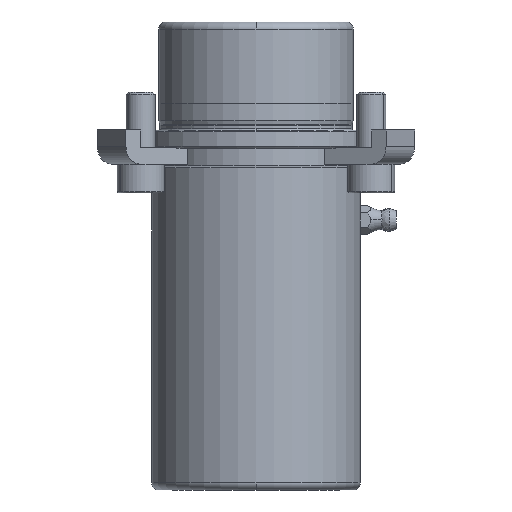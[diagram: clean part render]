
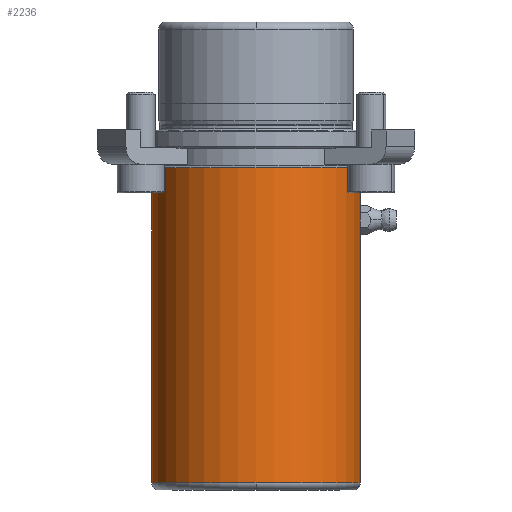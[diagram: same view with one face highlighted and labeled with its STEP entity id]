
A CAD part, front view. The second image highlights one B-rep face of the part: STEP entity #2236.
In plain terms, the highlighted cylindrical face has radius 29 mm (diameter 58 mm), a partial arc.
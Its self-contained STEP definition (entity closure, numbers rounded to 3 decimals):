
#604=CARTESIAN_POINT('',(0.,-29.,-98.));
#605=VERTEX_POINT('',#604);
#613=CARTESIAN_POINT('',(-29.0,0.,-98.));
#614=VERTEX_POINT('',#613);
#615=CARTESIAN_POINT('',(0.0,0.,-98.));
#616=DIRECTION('',(0.0,0.0,-1.0));
#617=DIRECTION('',(1.0,0.0,0.0));
#618=AXIS2_PLACEMENT_3D('',#615,#616,#617);
#619=CIRCLE('',#618,29.0);
#620=EDGE_CURVE('',#605,#614,#619,.T.);
#637=CARTESIAN_POINT('',(29.0,0.,-98.));
#638=VERTEX_POINT('',#637);
#639=CARTESIAN_POINT('',(29.0,0.,-27.5));
#640=VERTEX_POINT('',#639);
#641=CARTESIAN_POINT('',(29.0,0.,-98.));
#642=DIRECTION('',(0.0,0.0,1.0));
#643=VECTOR('',#642,70.5);
#644=LINE('',#641,#643);
#645=EDGE_CURVE('',#638,#640,#644,.T.);
#655=CARTESIAN_POINT('',(-29.0,0.,-10.5));
#656=VERTEX_POINT('',#655);
#657=CARTESIAN_POINT('',(-29.0,0.,-98.));
#658=DIRECTION('',(0.0,0.0,1.0));
#659=VECTOR('',#658,87.5);
#660=LINE('',#657,#659);
#661=EDGE_CURVE('',#614,#656,#660,.T.);
#663=CARTESIAN_POINT('',(29.0,0.,-10.5));
#664=VERTEX_POINT('',#663);
#672=CARTESIAN_POINT('',(29.0,0.,-22.5));
#673=VERTEX_POINT('',#672);
#674=CARTESIAN_POINT('',(29.0,0.,-22.5));
#675=DIRECTION('',(0.0,0.0,1.0));
#676=VECTOR('',#675,12.0);
#677=LINE('',#674,#676);
#678=EDGE_CURVE('',#673,#664,#677,.T.);
#1577=CARTESIAN_POINT('',(28.892,-2.5,-25.));
#1578=VERTEX_POINT('',#1577);
#1579=CARTESIAN_POINT('',(28.892,-2.5,-25.));
#1580=CARTESIAN_POINT('',(28.892,-2.5,-24.843));
#1581=CARTESIAN_POINT('',(28.893,-2.485,-24.681));
#1582=CARTESIAN_POINT('',(28.899,-2.422,-24.358));
#1583=CARTESIAN_POINT('',(28.903,-2.373,-24.197));
#1584=CARTESIAN_POINT('',(28.913,-2.246,-23.889));
#1585=CARTESIAN_POINT('',(28.919,-2.166,-23.741));
#1586=CARTESIAN_POINT('',(28.932,-1.983,-23.469));
#1587=CARTESIAN_POINT('',(28.939,-1.879,-23.343));
#1588=CARTESIAN_POINT('',(28.953,-1.657,-23.121));
#1589=CARTESIAN_POINT('',(28.96,-1.531,-23.017));
#1590=CARTESIAN_POINT('',(28.973,-1.259,-22.834));
#1591=CARTESIAN_POINT('',(28.979,-1.111,-22.754));
#1592=CARTESIAN_POINT('',(28.989,-0.803,-22.627));
#1593=CARTESIAN_POINT('',(28.993,-0.642,-22.578));
#1594=CARTESIAN_POINT('',(28.999,-0.319,-22.515));
#1595=CARTESIAN_POINT('',(29.0,-0.157,-22.5));
#1596=CARTESIAN_POINT('',(29.0,0.,-22.5));
#1597=B_SPLINE_CURVE_WITH_KNOTS('',3,(#1579,#1580,#1581,#1582,#1583,#1584,#1585,#1586,#1587,#1588,#1589,#1590,#1591,#1592,#1593,#1594,#1595,#1596),.UNSPECIFIED.,.F.,.U.,(4,2,2,2,2,2,2,2,4),(0.0,0.471,0.942,1.413,1.884,2.356,2.827,3.298,3.769),.UNSPECIFIED.);
#1598=EDGE_CURVE('',#1578,#673,#1597,.T.);
#1600=CARTESIAN_POINT('',(29.0,0.,-27.5));
#1601=CARTESIAN_POINT('',(29.0,-0.157,-27.5));
#1602=CARTESIAN_POINT('',(28.999,-0.319,-27.485));
#1603=CARTESIAN_POINT('',(28.993,-0.642,-27.422));
#1604=CARTESIAN_POINT('',(28.989,-0.803,-27.373));
#1605=CARTESIAN_POINT('',(28.979,-1.111,-27.246));
#1606=CARTESIAN_POINT('',(28.973,-1.259,-27.166));
#1607=CARTESIAN_POINT('',(28.96,-1.531,-26.983));
#1608=CARTESIAN_POINT('',(28.953,-1.657,-26.879));
#1609=CARTESIAN_POINT('',(28.939,-1.879,-26.657));
#1610=CARTESIAN_POINT('',(28.932,-1.983,-26.531));
#1611=CARTESIAN_POINT('',(28.919,-2.166,-26.259));
#1612=CARTESIAN_POINT('',(28.913,-2.246,-26.111));
#1613=CARTESIAN_POINT('',(28.903,-2.373,-25.803));
#1614=CARTESIAN_POINT('',(28.899,-2.422,-25.642));
#1615=CARTESIAN_POINT('',(28.893,-2.485,-25.319));
#1616=CARTESIAN_POINT('',(28.892,-2.5,-25.157));
#1617=CARTESIAN_POINT('',(28.892,-2.5,-25.));
#1618=B_SPLINE_CURVE_WITH_KNOTS('',3,(#1600,#1601,#1602,#1603,#1604,#1605,#1606,#1607,#1608,#1609,#1610,#1611,#1612,#1613,#1614,#1615,#1616,#1617),.UNSPECIFIED.,.F.,.U.,(4,2,2,2,2,2,2,2,4),(11.307,11.778,12.249,12.72,13.191,13.662,14.133,14.604,15.075),.UNSPECIFIED.);
#1619=EDGE_CURVE('',#640,#1578,#1618,.T.);
#2205=CARTESIAN_POINT('',(0.0,0.,-10.5));
#2206=DIRECTION('',(0.0,0.0,-1.0));
#2207=DIRECTION('',(1.0,0.0,0.0));
#2208=AXIS2_PLACEMENT_3D('',#2205,#2206,#2207);
#2209=CIRCLE('',#2208,29.0);
#2210=EDGE_CURVE('',#664,#656,#2209,.T.);
#2215=CARTESIAN_POINT('',(0.0,0.,-54.25));
#2216=DIRECTION('',(0.0,0.,-1.0));
#2217=DIRECTION('',(1.0,0.0,0.0));
#2218=AXIS2_PLACEMENT_3D('',#2215,#2216,#2217);
#2219=CYLINDRICAL_SURFACE('',#2218,29.0);
#2220=ORIENTED_EDGE('',*,*,#645,.T.);
#2221=ORIENTED_EDGE('',*,*,#1619,.T.);
#2222=ORIENTED_EDGE('',*,*,#1598,.T.);
#2223=ORIENTED_EDGE('',*,*,#678,.T.);
#2224=ORIENTED_EDGE('',*,*,#2210,.T.);
#2225=ORIENTED_EDGE('',*,*,#661,.F.);
#2226=ORIENTED_EDGE('',*,*,#620,.F.);
#2227=CARTESIAN_POINT('',(0.0,0.,-98.));
#2228=DIRECTION('',(0.0,0.0,-1.0));
#2229=DIRECTION('',(1.0,0.0,0.0));
#2230=AXIS2_PLACEMENT_3D('',#2227,#2228,#2229);
#2231=CIRCLE('',#2230,29.0);
#2232=EDGE_CURVE('',#638,#605,#2231,.T.);
#2233=ORIENTED_EDGE('',*,*,#2232,.F.);
#2234=EDGE_LOOP('',(#2220,#2221,#2222,#2223,#2224,#2225,#2226,#2233));
#2235=FACE_OUTER_BOUND('',#2234,.T.);
#2236=ADVANCED_FACE('',(#2235),#2219,.T.);
